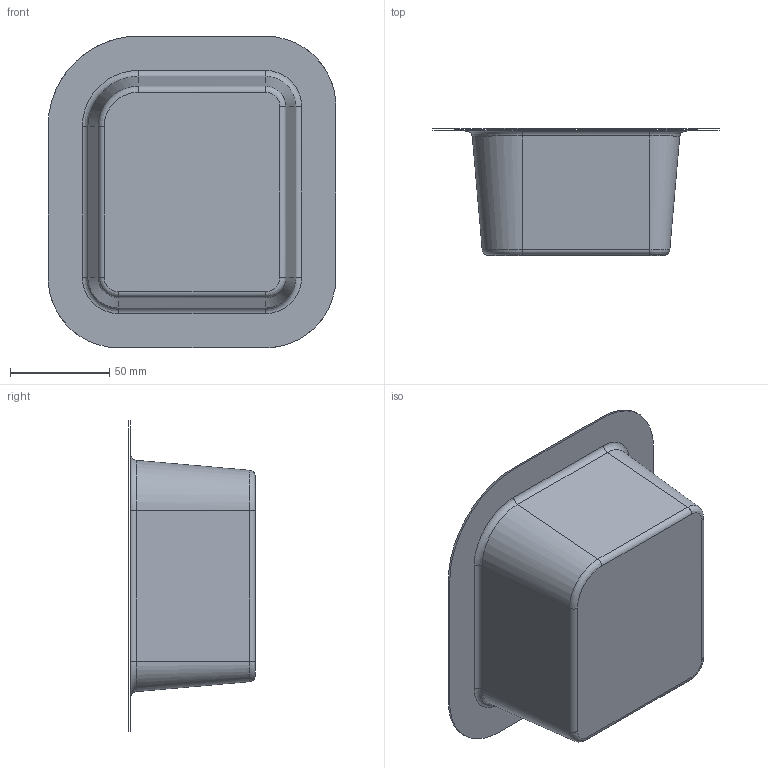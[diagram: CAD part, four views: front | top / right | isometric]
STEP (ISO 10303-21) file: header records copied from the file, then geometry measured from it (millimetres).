
FILE_DESCRIPTION(('CATIA V5 STEP Exchange'),'2;1');
FILE_NAME('C:\_Andres\UNIVERSIDAD\IQS\ASIGNATURAS\DAO\Controles\1617\c3\2inicio\Campmany_Monforte_control3_v6.stp','2017-02-17T14:22:03+00:00',('none'),('none'),'CATIA Version 5-6 Release 2014 SP1 HF18','CATIA V5 STEP AP203','none');
FILE_SCHEMA(('CONFIG_CONTROL_DESIGN'));
Length unit declared in the file: millimetre
Products named in the file (1): Campmany_Monforte_control3_v6
Bounding box: 144.98 x 63.76 x 156.98 mm (x, y, z)
Surface area: 64941.3 mm2 (no closed solid volume)
Topology: 0 solids, 2 shells, 27 faces, 80 edges, 57 vertices
Faces by surface type: bspline 16, cylinder 8, plane 3
Entity records: 1916 total; most frequent: CARTESIAN_POINT 1320, ORIENTED_EDGE 128, EDGE_CURVE 72, B_SPLINE_CURVE_WITH_KNOTS 54, DIRECTION 50, VERTEX_POINT 48, EDGE_LOOP 28, ADVANCED_FACE 27
